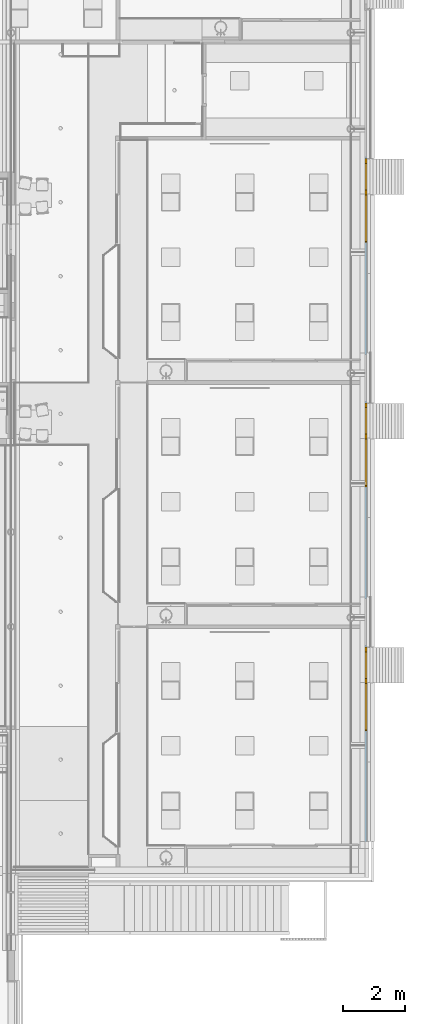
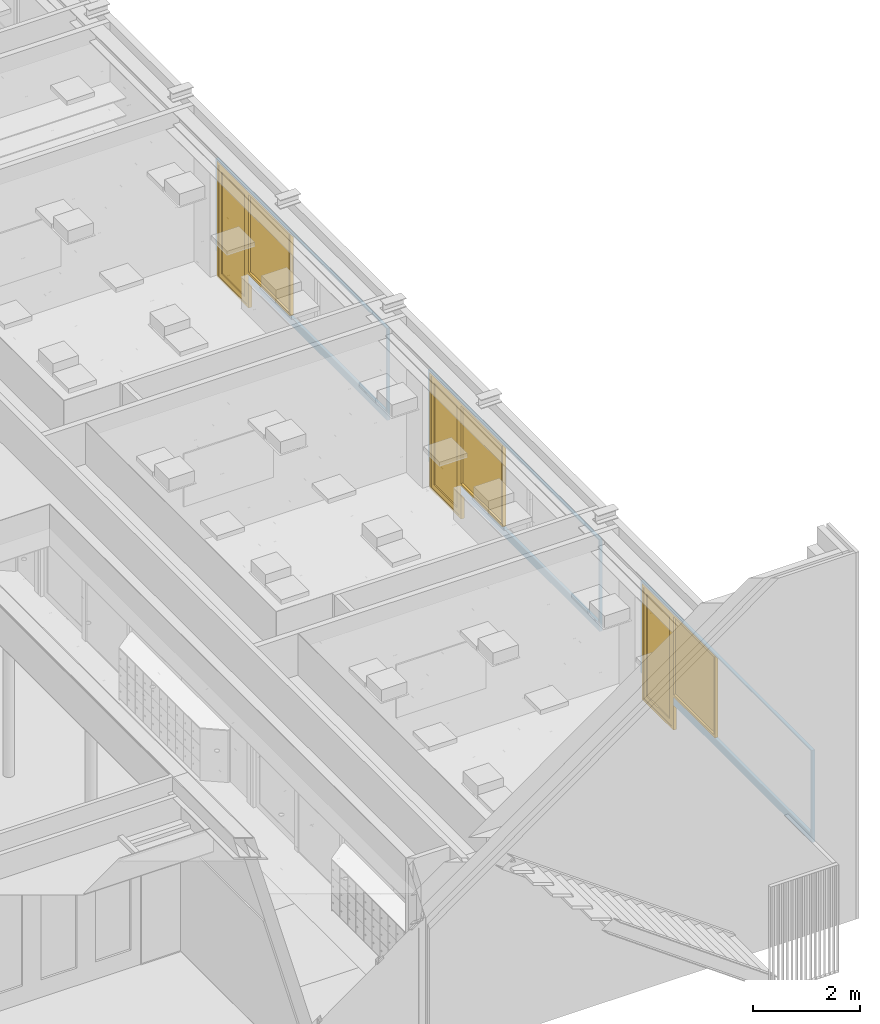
# One storey, part 31 of 347: 3 doors, 6 openings, plus 3 elements that do not belong to this part.
"""IFC2X3 building model written with IfcOpenShell, lengths in millimetres."""

from ifc_helpers import new_model, entity, si_unit, converted_unit, derived_unit, money_unit, direction, frame, origin_with_axes, place, context, subcontext, project, spatial, open_shell, faceted_brep, surface_model, material, type_object, element, fill, save


model = new_model("IFC2X3")

# Units and contexts
model_context = context("Model", 3, precision=0.01, world=origin_with_axes(), true_north=direction((0.0, 1.0)))
plan_context = context("Plan", 3, precision=0.01, world=origin_with_axes(), true_north=direction((0.0, 1.0)))
body_context = subcontext(model_context, "Body", "Model", "MODEL_VIEW")
ifc_project = project(units=[si_unit("LENGTHUNIT", "METRE", prefix="MILLI"), si_unit("AREAUNIT", "SQUARE_METRE"), si_unit("VOLUMEUNIT", "CUBIC_METRE"), converted_unit("PLANEANGLEUNIT", "DEGREE", entity("IfcPlaneAngleMeasure", 0.0174532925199), si_unit("PLANEANGLEUNIT", "RADIAN"), dimensions=[0, 0, 0, 0, 0, 0, 0]), money_unit("EUR"), converted_unit("TIMEUNIT", "Year", entity("IfcTimeMeasure", 31556926.0), si_unit("TIMEUNIT", "SECOND"), dimensions=[0, 0, 1, 0, 0, 0, 0]), si_unit("MASSUNIT", "GRAM", prefix="KILO"), si_unit("THERMODYNAMICTEMPERATUREUNIT", "DEGREE_CELSIUS"), si_unit("LUMINOUSINTENSITYUNIT", "LUMEN"), si_unit("ENERGYUNIT", "JOULE", prefix="MEGA"), derived_unit("THERMALCONDUCTANCEUNIT", [(si_unit("POWERUNIT", "WATT"), 1), (si_unit("LENGTHUNIT", "METRE"), -1), (si_unit("THERMODYNAMICTEMPERATUREUNIT", "KELVIN"), -1)]), derived_unit("SPECIFICHEATCAPACITYUNIT", [(si_unit("ENERGYUNIT", "JOULE"), 1), (si_unit("MASSUNIT", "GRAM", prefix="KILO"), -1), (si_unit("THERMODYNAMICTEMPERATUREUNIT", "KELVIN"), -1)]), derived_unit("MASSDENSITYUNIT", [(si_unit("MASSUNIT", "GRAM", prefix="KILO"), 1), (si_unit("VOLUMEUNIT", "CUBIC_METRE"), -1)])], contexts=[model_context, plan_context])

# Site, building, storey
site_placement = place(None, origin_with_axes())
site = spatial("IfcSite", under=ifc_project, at=site_placement, Name="Site", CompositionType="ELEMENT")
building_placement = place(site_placement, origin_with_axes())
building = spatial("IfcBuilding", under=site, at=building_placement, Name="Naam gebouw", CompositionType="ELEMENT")
storey_placement = place(building_placement, origin_with_axes())
storey = spatial("IfcBuildingStorey", under=building, at=storey_placement, Name="begane grond", CompositionType="ELEMENT", Elevation=0.0)

# Member, openings, door
ifc_material = material(Name="31 pui/kozijn")
member_type = type_object("IfcMemberType", Name="31 pui/kozijn 62", PredefinedType="MEMBER")
member_1_placement = place(storey_placement, frame((56025.0, 19437.5, 535.00000231), z_axis=(0.0, 0.0, 1.0), x_axis=(5.01272690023e-09, -1.0, 0.0)))
member_1 = element("IfcMember", 1, at=member_1_placement, inside=storey, type_object=member_type, material=ifc_material, Name="21_31 buitenkozijn pui", ObjectType="MEMBER", context=body_context, shape_type="Brep", body=[
    faceted_brep([(50.0000003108, 61.9999997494, 2064.99999769), (50.0000003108, 61.9999997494, 0.0), (3.10791392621e-07, 62.0, 0.0), (3.10791392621e-07, 62.0, 2100.0), (6400.00000031, 61.9999679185, 2100.0), (6400.00000031, 61.9999679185, 0.0), (1227.00000031, 61.9999938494, 0.0), (1227.00000031, 61.9999938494, 184.99999769), (2775.00000031, 61.9999860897, 184.99999769), (6350.00000031, 61.9999681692, 184.99999769), (6350.00000031, 61.9999681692, 2064.99999769), (2775.00000031, 61.9999860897, 2064.99999769), (50.0, -2.50636844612e-07, 2064.99999769), (50.0, -2.50636844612e-07, 0.0), (0.0, 0.0, 0.0), (0.0, 0.0, 2100.0), (6400.0, -3.20814521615e-05, 2100.0), (6400.0, -3.20814521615e-05, 0.0), (1227.0, -6.15061424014e-06, 0.0), (1227.0, -6.15061424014e-06, 184.99999769), (2775.0, -1.39103164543e-05, 184.99999769), (6350.0, -3.18308153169e-05, 184.99999769), (6350.0, -3.18308153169e-05, 2064.99999769), (2775.0, -1.39103164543e-05, 2064.99999769)], [[[0, 1, 2, 3, 4, 5, 6, 7, 8, 9, 10, 11]], [[1, 0, 12, 13]], [[1, 13, 14, 2]], [[14, 15, 3, 2]], [[4, 3, 15, 16]], [[4, 16, 17, 5]], [[18, 6, 5, 17]], [[7, 6, 18, 19]], [[8, 7, 19, 20, 21, 9]], [[9, 21, 22, 10]], [[23, 12, 0, 11, 10, 22]], [[12, 23, 22, 21, 20, 19, 18, 17, 16, 15, 14, 13]]]),
])
opening_1_placement = place(member_1_placement, frame((4562.5, 0.0, 184.99999769), z_axis=(0.0, 0.0, 1.0), x_axis=(1.0, 0.0, 0.0)))
element("IfcOpeningElement", 2, at=opening_1_placement, cuts=member_1, Name="31_merk-AA1", context=body_context, shape_type="Brep", body=[
    faceted_brep([(1787.5, -3.18308124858e-05, 1880.0), (1787.5, -3.18308124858e-05, 0.0), (1787.50000036, 71.9999681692, 0.0), (1787.50000036, 71.9999681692, 1880.0), (-1787.5, -1.39103138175e-05, 1880.0), (-1787.5, -1.39103138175e-05, 0.0), (-1787.49999964, 71.9999860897, 0.0), (-1787.49999964, 71.9999860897, 1880.0)], [[[0, 1, 2, 3]], [[0, 4, 5, 1]], [[1, 5, 6, 2]], [[3, 2, 6, 7]], [[4, 0, 3, 7]], [[5, 4, 7, 6]]]),
    faceted_brep([(1787.50000036, 71.9999910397, 0.0), (1787.50000036, 71.9999910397, 1880.0), (1787.49999964, -72.0000089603, 1880.0), (1787.49999964, -72.0000089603, 0.0), (-1787.49999964, 72.0000089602, 0.0), (-1787.49999964, 72.0000089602, 1880.0), (-1787.50000036, -71.9999910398, 1880.0), (-1787.50000036, -71.9999910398, 0.0)], [[[0, 1, 2, 3]], [[0, 4, 5, 1]], [[1, 5, 6, 2]], [[3, 2, 6, 7]], [[4, 0, 3, 7]], [[5, 4, 7, 6]]]),
])
opening_2_placement = place(member_1_placement, frame((1412.5, 0.0, -575.00000231), z_axis=(0.0, 0.0, 1.0), x_axis=(1.0, 0.0, 0.0)))
opening_2 = element("IfcOpeningElement", 3, at=opening_2_placement, cuts=member_1, Name="32_merk-AA2", context=body_context, shape_type="Brep", body=[
    faceted_brep([(1362.50000067, 133.99999317, 760.000009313), (1362.50000067, 133.99999317, 2640.0), (1362.49999969, -62.0000068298, 2640.0), (1362.49999969, -62.0000068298, 760.000009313), (-185.500006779, 134.00000093, 760.000009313), (-185.500006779, 134.00000093, -7.45059994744e-07), (-1362.49999933, 134.00000683, -7.45059994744e-07), (-1362.49999933, 134.00000683, 2640.0), (-1362.50000031, -61.9999931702, 2640.0), (-1362.50000031, -61.9999931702, -7.45060006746e-07), (-185.500007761, -61.9999990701, -7.45060006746e-07), (-185.500007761, -61.9999990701, 760.000009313)], [[[0, 1, 2, 3]], [[0, 4, 5, 6, 7, 1]], [[1, 7, 8, 2]], [[3, 2, 8, 9, 10, 11]], [[4, 0, 3, 11]], [[5, 4, 11, 10]], [[6, 5, 10, 9]], [[7, 6, 9, 8]]]),
])
door_style = type_object("IfcDoorStyle", Name="D1 zl1-b 25", ConstructionType="NOTDEFINED", OperationType="SINGLE_SWING_LEFT", ParameterTakesPrecedence=False, Sizeable=False)
door_1_placement = place(opening_2_placement, frame((-1362.5, 0.0, 0.0), z_axis=(0.0, 0.0, 1.0), x_axis=(1.0, 0.0, 0.0)))
door_1 = element("IfcDoor", 4, at=door_1_placement, inside=storey, type_object=door_style, Name="32_merk-AA2", ObjectType="DOOR", OverallHeight=2640.0, OverallWidth=2725.0, context=body_context, shape_type="SurfaceModel", body=[
    faceted_brep([(54.0000003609, 71.9999994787, 0.0), (1109.00000036, 71.9999941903, 0.0), (1109.0, -5.80975267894e-06, 0.0), (54.0, -5.21325205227e-07, 0.0), (54.0000003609, 71.9999994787, 48.0), (1109.00000036, 71.9999941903, 48.0), (1109.0, -5.80975267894e-06, 48.0), (54.0, -5.21325205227e-07, 48.0)], [[[0, 1, 2, 3]], [[4, 5, 1, 0]], [[1, 5, 6, 2]], [[3, 2, 6, 7]], [[0, 3, 7, 4]], [[7, 6, 5, 4]]]),
    faceted_brep([(2725.00000036, 71.9999860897, 760.0), (2725.0, -1.39103164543e-05, 760.0), (2686.0, -1.37148177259e-05, 760.0), (2686.00000036, 71.9999862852, 760.0), (2725.00000036, 71.9999860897, 2586.0), (2725.0, -1.39103164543e-05, 2586.0), (2686.0, -1.37148177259e-05, 2586.0), (2686.0, -1.37148177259e-05, 814.0), (2686.00000036, 71.9999862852, 814.0), (2686.00000036, 71.9999862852, 2586.0)], [[[0, 1, 2, 3]], [[4, 5, 1, 0]], [[1, 5, 6, 7, 2]], [[3, 2, 7, 8]], [[0, 3, 8, 9, 4]], [[9, 6, 5, 4]], [[8, 7, 6, 9]]]),
    faceted_brep([(1177.00000036, 71.9999938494, 2586.0), (1177.0, -6.15061424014e-06, 2586.0), (1177.0, -6.15061424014e-06, 814.0), (1177.00000036, 71.9999938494, 814.0), (1109.00000036, 71.9999941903, 2586.0), (1109.0, -5.80975267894e-06, 2586.0), (1109.0, -5.80975267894e-06, 0.0), (1177.0, -6.15061424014e-06, 0.0), (1177.0, -6.15061424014e-06, 760.0), (1177.00000036, 71.9999938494, 760.0), (1177.00000036, 71.9999938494, 0.0), (1109.00000036, 71.9999941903, 0.0)], [[[0, 1, 2, 3]], [[4, 5, 1, 0]], [[1, 5, 6, 7, 8, 2]], [[3, 2, 8, 9]], [[0, 3, 9, 10, 11, 4]], [[11, 6, 5, 4]], [[10, 7, 6, 11]], [[9, 8, 7, 10]]]),
    faceted_brep([(2686.00000036, 71.9999862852, 814.0), (2686.0, -1.37148177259e-05, 814.0), (2686.0, -1.37148177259e-05, 760.0), (2686.00000036, 71.9999862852, 760.0), (1177.00000036, 71.9999938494, 814.0), (1177.0, -6.15061424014e-06, 814.0), (1177.0, -6.15061424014e-06, 760.0), (1177.00000036, 71.9999938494, 760.0)], [[[0, 1, 2, 3]], [[4, 5, 1, 0]], [[1, 5, 6, 2]], [[3, 2, 6, 7]], [[0, 3, 7, 4]], [[7, 6, 5, 4]]]),
    faceted_brep([(3.60916629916e-07, 71.9999997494, 0.0), (0.0, -2.50636844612e-07, 0.0), (0.0, -2.50636844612e-07, 2586.0), (3.60916629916e-07, 71.9999997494, 2586.0), (54.0000003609, 71.9999994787, 0.0), (54.0, -5.21325205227e-07, 0.0), (54.0, -5.21325205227e-07, 2586.0), (54.0000003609, 71.9999994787, 2586.0)], [[[0, 1, 2, 3]], [[4, 5, 1, 0]], [[1, 5, 6, 2]], [[3, 2, 6, 7]], [[0, 3, 7, 4]], [[7, 6, 5, 4]]]),
    faceted_brep([(2725.00000036, 71.9999860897, 2640.0), (2725.0, -1.39103164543e-05, 2640.0), (2725.0, -1.39103164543e-05, 2586.0), (2725.00000036, 71.9999860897, 2586.0), (3.60916629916e-07, 71.9999997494, 2640.0), (0.0, -2.50636844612e-07, 2640.0), (0.0, -2.50636844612e-07, 2586.0), (54.0, -5.21325205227e-07, 2586.0), (1109.0, -5.80975267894e-06, 2586.0), (1177.0, -6.15061424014e-06, 2586.0), (2686.0, -1.37148177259e-05, 2586.0), (2686.00000036, 71.9999862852, 2586.0), (1177.00000036, 71.9999938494, 2586.0), (1109.00000036, 71.9999941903, 2586.0), (54.0000003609, 71.9999994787, 2586.0), (3.60916629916e-07, 71.9999997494, 2586.0)], [[[0, 1, 2, 3]], [[4, 5, 1, 0]], [[1, 5, 6, 7, 8, 9, 10, 2]], [[3, 2, 10, 11]], [[0, 3, 11, 12, 13, 14, 15, 4]], [[15, 6, 5, 4]], [[14, 7, 6, 15]], [[13, 8, 7, 14]], [[12, 9, 8, 13]], [[11, 10, 9, 12]]]),
    faceted_brep([(54.0000003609, 71.9999994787, 158.0), (154.000000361, 71.9999989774, 158.0), (154.00000005, 9.99999897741, 158.0), (54.0000000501, 9.99999947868, 158.0), (54.0000003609, 71.9999994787, 2486.0), (154.000000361, 71.9999989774, 2486.0), (154.00000005, 9.99999897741, 2486.0), (54.0000000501, 9.99999947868, 2486.0)], [[[0, 1, 2, 3]], [[0, 4, 5, 1]], [[1, 5, 6, 2]], [[3, 2, 6, 7]], [[4, 0, 3, 7]], [[5, 4, 7, 6]]]),
    faceted_brep([(1109.00000036, 71.9999941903, 158.0), (1109.00000036, 71.9999941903, 2486.0), (1109.00000005, 9.99999419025, 2486.0), (1109.00000005, 9.99999419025, 158.0), (1009.00000036, 71.9999946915, 158.0), (1009.00000036, 71.9999946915, 2486.0), (1009.00000005, 9.99999469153, 2486.0), (1009.00000005, 9.99999469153, 158.0)], [[[0, 1, 2, 3]], [[0, 4, 5, 1]], [[1, 5, 6, 2]], [[3, 2, 6, 7]], [[4, 0, 3, 7]], [[5, 4, 7, 6]]]),
    faceted_brep([(54.0000003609, 71.9999994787, 48.0), (1109.00000036, 71.9999941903, 48.0), (1109.00000005, 9.99999419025, 48.0), (54.0000000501, 9.99999947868, 48.0), (54.0000003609, 71.9999994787, 158.0), (154.000000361, 71.9999989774, 158.0), (1009.00000036, 71.9999946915, 158.0), (1109.00000036, 71.9999941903, 158.0), (1109.00000005, 9.99999419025, 158.0), (1009.00000005, 9.99999469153, 158.0), (154.00000005, 9.99999897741, 158.0), (54.0000000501, 9.99999947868, 158.0)], [[[0, 1, 2, 3]], [[0, 4, 5, 6, 7, 1]], [[1, 7, 8, 2]], [[3, 2, 8, 9, 10, 11]], [[4, 0, 3, 11]], [[5, 4, 11, 10]], [[6, 5, 10, 9]], [[7, 6, 9, 8]]]),
    faceted_brep([(54.0000003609, 71.9999994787, 2586.0), (54.0000003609, 71.9999994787, 2486.0), (54.0000000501, 9.99999947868, 2486.0), (54.0000000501, 9.99999947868, 2586.0), (1109.00000036, 71.9999941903, 2586.0), (1109.00000036, 71.9999941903, 2486.0), (1009.00000036, 71.9999946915, 2486.0), (154.000000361, 71.9999989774, 2486.0), (154.00000005, 9.99999897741, 2486.0), (1009.00000005, 9.99999469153, 2486.0), (1109.00000005, 9.99999419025, 2486.0), (1109.00000005, 9.99999419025, 2586.0)], [[[0, 1, 2, 3]], [[0, 4, 5, 6, 7, 1]], [[1, 7, 8, 2]], [[3, 2, 8, 9, 10, 11]], [[4, 0, 3, 11]], [[5, 4, 11, 10]], [[6, 5, 10, 9]], [[7, 6, 9, 8]]]),
    surface_model("IfcShellBasedSurfaceModel", [(154.000000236, 46.9999989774, 158.0), (154.000000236, 46.9999989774, 2486.0), (1009.00000024, 46.9999946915, 2486.0), (1009.00000024, 46.9999946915, 158.0)], [open_shell([[[0, 1, 2, 3]]])]),
    surface_model("IfcShellBasedSurfaceModel", [(154.000000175, 34.9999989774, 158.0), (1009.00000018, 34.9999946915, 158.0), (1009.00000018, 34.9999946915, 2486.0), (154.000000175, 34.9999989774, 2486.0)], [open_shell([[[0, 1, 2, 3]]])]),
    surface_model("IfcShellBasedSurfaceModel", [(2686.0000003, 59.9999862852, 814.0), (1177.0000003, 59.9999938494, 814.0), (1177.0000003, 59.9999938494, 2586.0), (2686.0000003, 59.9999862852, 2586.0)], [open_shell([[[0, 1, 2, 3]]])]),
    surface_model("IfcShellBasedSurfaceModel", [(2686.00000024, 47.9999862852, 814.0), (2686.00000024, 47.9999862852, 2586.0), (1177.00000024, 47.9999938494, 2586.0), (1177.00000024, 47.9999938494, 814.0)], [open_shell([[[0, 1, 2, 3]]])]),
])
fill(opening_2, door_1)

member_2_placement = place(storey_placement, frame((56025.0, 35287.5, 535.00000231), z_axis=(0.0, 0.0, 1.0), x_axis=(-2.13369877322e-09, -1.0, 0.0)))
member_2 = element("IfcMember", 5, at=member_2_placement, inside=storey, type_object=member_type, material=ifc_material, Name="21_31 buitenkozijn pui", ObjectType="MEMBER", context=body_context, shape_type="Brep", body=[
    faceted_brep([(49.9999998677, 62.0000001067, 2064.99999769), (49.9999998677, 62.0000001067, 0.0), (-1.32288846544e-07, 62.0, 0.0), (-1.32288846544e-07, 62.0, 2100.0), (6399.99999987, 62.0000136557, 2100.0), (6399.99999987, 62.0000136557, 0.0), (1226.99999987, 62.000002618, 0.0), (1226.99999987, 62.000002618, 184.99999769), (2774.99999987, 62.000005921, 184.99999769), (6349.99999987, 62.000013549, 184.99999769), (6349.99999987, 62.000013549, 2064.99999769), (2774.99999987, 62.000005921, 2064.99999769), (50.0, 1.06687991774e-07, 2064.99999769), (50.0, 1.06687991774e-07, 0.0), (0.0, 0.0, 0.0), (0.0, 0.0, 2100.0), (6400.0, 1.36556721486e-05, 2100.0), (6400.0, 1.36556721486e-05, 0.0), (1227.0, 2.61805155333e-06, 0.0), (1227.0, 2.61805155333e-06, 184.99999769), (2775.0, 5.92101656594e-06, 184.99999769), (6350.0, 1.35489841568e-05, 184.99999769), (6350.0, 1.35489841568e-05, 2064.99999769), (2775.0, 5.92101656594e-06, 2064.99999769)], [[[0, 1, 2, 3, 4, 5, 6, 7, 8, 9, 10, 11]], [[1, 0, 12, 13]], [[1, 13, 14, 2]], [[14, 15, 3, 2]], [[4, 3, 15, 16]], [[4, 16, 17, 5]], [[18, 6, 5, 17]], [[7, 6, 18, 19]], [[8, 7, 19, 20, 21, 9]], [[9, 21, 22, 10]], [[23, 12, 0, 11, 10, 22]], [[12, 23, 22, 21, 20, 19, 18, 17, 16, 15, 14, 13]]]),
])
opening_3_placement = place(member_2_placement, frame((4562.5, 0.0, 184.99999769), z_axis=(0.0, 0.0, 1.0), x_axis=(1.0, 0.0, 0.0)))
element("IfcOpeningElement", 6, at=opening_3_placement, cuts=member_2, Name="31_merk-AA1", context=body_context, shape_type="Brep", body=[
    faceted_brep([(1787.5, 1.35489932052e-05, 1880.0), (1787.5, 1.35489932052e-05, 0.0), (1787.49999985, 72.000013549, 0.0), (1787.49999985, 72.000013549, 1880.0), (-1787.5, 5.92102009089e-06, 1880.0), (-1787.5, 5.92102009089e-06, 0.0), (-1787.50000015, 72.000005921, 0.0), (-1787.50000015, 72.000005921, 1880.0)], [[[0, 1, 2, 3]], [[0, 4, 5, 1]], [[1, 5, 6, 2]], [[3, 2, 6, 7]], [[4, 0, 3, 7]], [[5, 4, 7, 6]]]),
    faceted_brep([(1787.49999985, 72.000003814, 0.0), (1787.49999985, 72.000003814, 1880.0), (1787.50000015, -71.999996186, 1880.0), (1787.50000015, -71.999996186, 0.0), (-1787.50000015, 71.999996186, 0.0), (-1787.50000015, 71.999996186, 1880.0), (-1787.49999985, -72.000003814, 1880.0), (-1787.49999985, -72.000003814, 0.0)], [[[0, 1, 2, 3]], [[0, 4, 5, 1]], [[1, 5, 6, 2]], [[3, 2, 6, 7]], [[4, 0, 3, 7]], [[5, 4, 7, 6]]]),
])
opening_4_placement = place(member_2_placement, frame((1412.5, 0.0, -575.00000231), z_axis=(0.0, 0.0, 1.0), x_axis=(1.0, 0.0, 0.0)))
opening_4 = element("IfcOpeningElement", 7, at=opening_4_placement, cuts=member_2, Name="32_merk-AA2", context=body_context, shape_type="Brep", body=[
    faceted_brep([(1362.49999971, 134.000002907, 760.000009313), (1362.49999971, 134.000002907, 2640.0), (1362.50000013, -61.9999970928, 2640.0), (1362.50000013, -61.9999970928, 760.000009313), (-185.500007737, 133.999999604, 760.000009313), (-185.500007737, 133.999999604, -7.45052889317e-07), (-1362.50000029, 133.999997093, -7.45052889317e-07), (-1362.50000029, 133.999997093, 2640.0), (-1362.49999987, -62.0000029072, 2640.0), (-1362.49999987, -62.0000029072, -7.45052901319e-07), (-185.500007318, -62.0000003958, -7.45052901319e-07), (-185.500007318, -62.0000003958, 760.000009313)], [[[0, 1, 2, 3]], [[0, 4, 5, 6, 7, 1]], [[1, 7, 8, 2]], [[3, 2, 8, 9, 10, 11]], [[4, 0, 3, 11]], [[5, 4, 11, 10]], [[6, 5, 10, 9]], [[7, 6, 9, 8]]]),
])
door_2_placement = place(opening_4_placement, frame((-1362.5, 0.0, 0.0), z_axis=(0.0, 0.0, 1.0), x_axis=(1.0, 0.0, 0.0)))
door_2 = element("IfcDoor", 8, at=door_2_placement, inside=storey, type_object=door_style, Name="32_merk-AA2", ObjectType="DOOR", OverallHeight=2640.0, OverallWidth=2725.0, context=body_context, shape_type="SurfaceModel", body=[
    faceted_brep([(53.9999998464, 72.0000002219, 0.0), (1108.99999985, 72.000002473, 0.0), (1109.0, 2.47295872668e-06, 0.0), (54.0, 2.21902496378e-07, 0.0), (53.9999998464, 72.0000002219, 48.0), (1108.99999985, 72.000002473, 48.0), (1109.0, 2.47295872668e-06, 48.0), (54.0, 2.21902496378e-07, 48.0)], [[[0, 1, 2, 3]], [[4, 5, 1, 0]], [[1, 5, 6, 2]], [[3, 2, 6, 7]], [[0, 3, 7, 4]], [[7, 6, 5, 4]]]),
    faceted_brep([(2724.99999985, 72.000005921, 760.0), (2725.0, 5.92101656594e-06, 760.0), (2686.0, 5.83779780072e-06, 760.0), (2685.99999985, 72.0000058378, 760.0), (2724.99999985, 72.000005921, 2586.0), (2725.0, 5.92101656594e-06, 2586.0), (2686.0, 5.83779780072e-06, 2586.0), (2686.0, 5.83779780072e-06, 814.0), (2685.99999985, 72.0000058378, 814.0), (2685.99999985, 72.0000058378, 2586.0)], [[[0, 1, 2, 3]], [[4, 5, 1, 0]], [[1, 5, 6, 7, 2]], [[3, 2, 7, 8]], [[0, 3, 8, 9, 4]], [[9, 6, 5, 4]], [[8, 7, 6, 9]]]),
    faceted_brep([(1176.99999985, 72.0000026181, 2586.0), (1177.0, 2.61805155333e-06, 2586.0), (1177.0, 2.61805155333e-06, 814.0), (1176.99999985, 72.0000026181, 814.0), (1108.99999985, 72.000002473, 2586.0), (1109.0, 2.47295872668e-06, 2586.0), (1109.0, 2.47295872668e-06, 0.0), (1177.0, 2.61805155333e-06, 0.0), (1177.0, 2.61805155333e-06, 760.0), (1176.99999985, 72.0000026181, 760.0), (1176.99999985, 72.0000026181, 0.0), (1108.99999985, 72.000002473, 0.0)], [[[0, 1, 2, 3]], [[4, 5, 1, 0]], [[1, 5, 6, 7, 8, 2]], [[3, 2, 8, 9]], [[0, 3, 9, 10, 11, 4]], [[11, 6, 5, 4]], [[10, 7, 6, 11]], [[9, 8, 7, 10]]]),
    faceted_brep([(2685.99999985, 72.0000058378, 814.0), (2686.0, 5.83779780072e-06, 814.0), (2686.0, 5.83779780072e-06, 760.0), (2685.99999985, 72.0000058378, 760.0), (1176.99999985, 72.0000026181, 814.0), (1177.0, 2.61805155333e-06, 814.0), (1177.0, 2.61805155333e-06, 760.0), (1176.99999985, 72.0000026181, 760.0)], [[[0, 1, 2, 3]], [[4, 5, 1, 0]], [[1, 5, 6, 2]], [[3, 2, 6, 7]], [[0, 3, 7, 4]], [[7, 6, 5, 4]]]),
    faceted_brep([(-1.53626444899e-07, 72.0000001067, 0.0), (0.0, 1.06687991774e-07, 0.0), (0.0, 1.06687991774e-07, 2586.0), (-1.53626444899e-07, 72.0000001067, 2586.0), (53.9999998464, 72.0000002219, 0.0), (54.0, 2.21902496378e-07, 0.0), (54.0, 2.21902496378e-07, 2586.0), (53.9999998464, 72.0000002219, 2586.0)], [[[0, 1, 2, 3]], [[4, 5, 1, 0]], [[1, 5, 6, 2]], [[3, 2, 6, 7]], [[0, 3, 7, 4]], [[7, 6, 5, 4]]]),
    faceted_brep([(2724.99999985, 72.000005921, 2640.0), (2725.0, 5.92101656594e-06, 2640.0), (2725.0, 5.92101656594e-06, 2586.0), (2724.99999985, 72.000005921, 2586.0), (-1.53626444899e-07, 72.0000001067, 2640.0), (0.0, 1.06687991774e-07, 2640.0), (0.0, 1.06687991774e-07, 2586.0), (54.0, 2.21902496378e-07, 2586.0), (1109.0, 2.47295872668e-06, 2586.0), (1177.0, 2.61805155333e-06, 2586.0), (2686.0, 5.83779780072e-06, 2586.0), (2685.99999985, 72.0000058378, 2586.0), (1176.99999985, 72.0000026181, 2586.0), (1108.99999985, 72.000002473, 2586.0), (53.9999998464, 72.0000002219, 2586.0), (-1.53626444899e-07, 72.0000001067, 2586.0)], [[[0, 1, 2, 3]], [[4, 5, 1, 0]], [[1, 5, 6, 7, 8, 9, 10, 2]], [[3, 2, 10, 11]], [[0, 3, 11, 12, 13, 14, 15, 4]], [[15, 6, 5, 4]], [[14, 7, 6, 15]], [[13, 8, 7, 14]], [[12, 9, 8, 13]], [[11, 10, 9, 12]]]),
    faceted_brep([(53.9999998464, 72.0000002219, 158.0), (153.999999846, 72.0000004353, 158.0), (153.999999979, 10.0000004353, 158.0), (53.9999999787, 10.0000002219, 158.0), (53.9999998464, 72.0000002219, 2486.0), (153.999999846, 72.0000004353, 2486.0), (153.999999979, 10.0000004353, 2486.0), (53.9999999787, 10.0000002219, 2486.0)], [[[0, 1, 2, 3]], [[0, 4, 5, 1]], [[1, 5, 6, 2]], [[3, 2, 6, 7]], [[4, 0, 3, 7]], [[5, 4, 7, 6]]]),
    faceted_brep([(1108.99999985, 72.000002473, 158.0), (1108.99999985, 72.000002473, 2486.0), (1108.99999998, 10.000002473, 2486.0), (1108.99999998, 10.000002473, 158.0), (1008.99999985, 72.0000022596, 158.0), (1008.99999985, 72.0000022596, 2486.0), (1008.99999998, 10.0000022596, 2486.0), (1008.99999998, 10.0000022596, 158.0)], [[[0, 1, 2, 3]], [[0, 4, 5, 1]], [[1, 5, 6, 2]], [[3, 2, 6, 7]], [[4, 0, 3, 7]], [[5, 4, 7, 6]]]),
    faceted_brep([(53.9999998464, 72.0000002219, 48.0), (1108.99999985, 72.000002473, 48.0), (1108.99999998, 10.000002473, 48.0), (53.9999999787, 10.0000002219, 48.0), (53.9999998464, 72.0000002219, 158.0), (153.999999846, 72.0000004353, 158.0), (1008.99999985, 72.0000022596, 158.0), (1108.99999985, 72.000002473, 158.0), (1108.99999998, 10.000002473, 158.0), (1008.99999998, 10.0000022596, 158.0), (153.999999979, 10.0000004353, 158.0), (53.9999999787, 10.0000002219, 158.0)], [[[0, 1, 2, 3]], [[0, 4, 5, 6, 7, 1]], [[1, 7, 8, 2]], [[3, 2, 8, 9, 10, 11]], [[4, 0, 3, 11]], [[5, 4, 11, 10]], [[6, 5, 10, 9]], [[7, 6, 9, 8]]]),
    faceted_brep([(53.9999998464, 72.0000002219, 2586.0), (53.9999998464, 72.0000002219, 2486.0), (53.9999999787, 10.0000002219, 2486.0), (53.9999999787, 10.0000002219, 2586.0), (1108.99999985, 72.000002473, 2586.0), (1108.99999985, 72.000002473, 2486.0), (1008.99999985, 72.0000022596, 2486.0), (153.999999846, 72.0000004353, 2486.0), (153.999999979, 10.0000004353, 2486.0), (1008.99999998, 10.0000022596, 2486.0), (1108.99999998, 10.000002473, 2486.0), (1108.99999998, 10.000002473, 2586.0)], [[[0, 1, 2, 3]], [[0, 4, 5, 6, 7, 1]], [[1, 7, 8, 2]], [[3, 2, 8, 9, 10, 11]], [[4, 0, 3, 11]], [[5, 4, 11, 10]], [[6, 5, 10, 9]], [[7, 6, 9, 8]]]),
    surface_model("IfcShellBasedSurfaceModel", [(153.9999999, 47.0000004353, 158.0), (153.9999999, 47.0000004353, 2486.0), (1008.9999999, 47.0000022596, 2486.0), (1008.9999999, 47.0000022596, 158.0)], [open_shell([[[0, 1, 2, 3]]])]),
    surface_model("IfcShellBasedSurfaceModel", [(153.999999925, 35.0000004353, 158.0), (1008.99999993, 35.0000022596, 158.0), (1008.99999993, 35.0000022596, 2486.0), (153.999999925, 35.0000004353, 2486.0)], [open_shell([[[0, 1, 2, 3]]])]),
    surface_model("IfcShellBasedSurfaceModel", [(2685.99999987, 60.0000058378, 814.0), (1176.99999987, 60.0000026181, 814.0), (1176.99999987, 60.0000026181, 2586.0), (2685.99999987, 60.0000058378, 2586.0)], [open_shell([[[0, 1, 2, 3]]])]),
    surface_model("IfcShellBasedSurfaceModel", [(2685.9999999, 48.0000058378, 814.0), (2685.9999999, 48.0000058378, 2586.0), (1176.9999999, 48.0000026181, 2586.0), (1176.9999999, 48.0000026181, 814.0)], [open_shell([[[0, 1, 2, 3]]])]),
])
fill(opening_4, door_2)

member_3_placement = place(storey_placement, frame((56025.0, 27362.5, 535.00000231), z_axis=(0.0, 0.0, 1.0), x_axis=(0.0, -1.0, 0.0)))
member_3 = element("IfcMember", 9, at=member_3_placement, inside=storey, type_object=member_type, material=ifc_material, Name="21_31 buitenkozijn pui", ObjectType="MEMBER", context=body_context, shape_type="Brep", body=[
    faceted_brep([(50.0, 62.0, 2064.99999769), (50.0, 62.0, 0.0), (0.0, 62.0, 0.0), (0.0, 62.0, 2100.0), (6400.0, 62.0, 2100.0), (6400.0, 62.0, 0.0), (1227.0, 62.0, 0.0), (1227.0, 62.0, 184.99999769), (2775.0, 62.0, 184.99999769), (6350.0, 62.0, 184.99999769), (6350.0, 62.0, 2064.99999769), (2775.0, 62.0, 2064.99999769), (50.0, 0.0, 2064.99999769), (50.0, 0.0, 0.0), (0.0, 0.0, 0.0), (0.0, 0.0, 2100.0), (6400.0, 0.0, 2100.0), (6400.0, 0.0, 0.0), (1227.0, 0.0, 0.0), (1227.0, 0.0, 184.99999769), (2775.0, 0.0, 184.99999769), (6350.0, 0.0, 184.99999769), (6350.0, 0.0, 2064.99999769), (2775.0, 0.0, 2064.99999769)], [[[0, 1, 2, 3, 4, 5, 6, 7, 8, 9, 10, 11]], [[1, 0, 12, 13]], [[1, 13, 14, 2]], [[14, 15, 3, 2]], [[4, 3, 15, 16]], [[4, 16, 17, 5]], [[18, 6, 5, 17]], [[7, 6, 18, 19]], [[8, 7, 19, 20, 21, 9]], [[9, 21, 22, 10]], [[23, 12, 0, 11, 10, 22]], [[12, 23, 22, 21, 20, 19, 18, 17, 16, 15, 14, 13]]]),
])
opening_5_placement = place(member_3_placement, frame((4562.5, 0.0, 184.99999769), z_axis=(0.0, 0.0, 1.0), x_axis=(1.0, 0.0, 0.0)))
element("IfcOpeningElement", 10, at=opening_5_placement, cuts=member_3, Name="31_merk-AA1", context=body_context, shape_type="Brep", body=[
    faceted_brep([(1787.5, 0.0, 1880.0), (1787.5, 0.0, 0.0), (1787.5, 72.0, 0.0), (1787.5, 72.0, 1880.0), (-1787.5, 0.0, 1880.0), (-1787.5, 0.0, 0.0), (-1787.5, 72.0, 0.0), (-1787.5, 72.0, 1880.0)], [[[0, 1, 2, 3]], [[0, 4, 5, 1]], [[1, 5, 6, 2]], [[3, 2, 6, 7]], [[4, 0, 3, 7]], [[5, 4, 7, 6]]]),
    faceted_brep([(1787.5, 72.0, 0.0), (1787.5, 72.0, 1880.0), (1787.5, -72.0, 1880.0), (1787.5, -72.0, 0.0), (-1787.5, 72.0, 0.0), (-1787.5, 72.0, 1880.0), (-1787.5, -72.0, 1880.0), (-1787.5, -72.0, 0.0)], [[[0, 1, 2, 3]], [[0, 4, 5, 1]], [[1, 5, 6, 2]], [[3, 2, 6, 7]], [[4, 0, 3, 7]], [[5, 4, 7, 6]]]),
])
opening_6_placement = place(member_3_placement, frame((1412.5, 0.0, -575.00000231), z_axis=(0.0, 0.0, 1.0), x_axis=(1.0, 0.0, 0.0)))
opening_6 = element("IfcOpeningElement", 11, at=opening_6_placement, cuts=member_3, Name="32_merk-AA2", context=body_context, shape_type="Brep", body=[
    faceted_brep([(1362.5, 134.0, 760.000009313), (1362.5, 134.0, 2640.0), (1362.5, -62.0, 2640.0), (1362.5, -62.0, 760.000009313), (-185.500007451, 134.0, 760.000009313), (-185.500007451, 134.0, -7.45059994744e-07), (-1362.5, 134.0, -7.45059994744e-07), (-1362.5, 134.0, 2640.0), (-1362.5, -62.0, 2640.0), (-1362.5, -62.0, -7.45060006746e-07), (-185.500007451, -62.0, -7.45060006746e-07), (-185.500007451, -62.0, 760.000009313)], [[[0, 1, 2, 3]], [[0, 4, 5, 6, 7, 1]], [[1, 7, 8, 2]], [[3, 2, 8, 9, 10, 11]], [[4, 0, 3, 11]], [[5, 4, 11, 10]], [[6, 5, 10, 9]], [[7, 6, 9, 8]]]),
])
door_3_placement = place(opening_6_placement, frame((-1362.5, 0.0, 0.0), z_axis=(0.0, 0.0, 1.0), x_axis=(1.0, 0.0, 0.0)))
door_3 = element("IfcDoor", 12, at=door_3_placement, inside=storey, type_object=door_style, Name="32_merk-AA2", ObjectType="DOOR", OverallHeight=2640.0, OverallWidth=2725.0, context=body_context, shape_type="SurfaceModel", body=[
    faceted_brep([(54.0, 72.0, 0.0), (1109.0, 72.0, 0.0), (1109.0, 0.0, 0.0), (54.0, 0.0, 0.0), (54.0, 72.0, 48.0), (1109.0, 72.0, 48.0), (1109.0, 0.0, 48.0), (54.0, 0.0, 48.0)], [[[0, 1, 2, 3]], [[4, 5, 1, 0]], [[1, 5, 6, 2]], [[3, 2, 6, 7]], [[0, 3, 7, 4]], [[7, 6, 5, 4]]]),
    faceted_brep([(2725.0, 72.0, 760.0), (2725.0, 0.0, 760.0), (2686.0, 0.0, 760.0), (2686.0, 72.0, 760.0), (2725.0, 72.0, 2586.0), (2725.0, 0.0, 2586.0), (2686.0, 0.0, 2586.0), (2686.0, 0.0, 814.0), (2686.0, 72.0, 814.0), (2686.0, 72.0, 2586.0)], [[[0, 1, 2, 3]], [[4, 5, 1, 0]], [[1, 5, 6, 7, 2]], [[3, 2, 7, 8]], [[0, 3, 8, 9, 4]], [[9, 6, 5, 4]], [[8, 7, 6, 9]]]),
    faceted_brep([(1177.0, 72.0, 2586.0), (1177.0, 0.0, 2586.0), (1177.0, 0.0, 814.0), (1177.0, 72.0, 814.0), (1109.0, 72.0, 2586.0), (1109.0, 0.0, 2586.0), (1109.0, 0.0, 0.0), (1177.0, 0.0, 0.0), (1177.0, 0.0, 760.0), (1177.0, 72.0, 760.0), (1177.0, 72.0, 0.0), (1109.0, 72.0, 0.0)], [[[0, 1, 2, 3]], [[4, 5, 1, 0]], [[1, 5, 6, 7, 8, 2]], [[3, 2, 8, 9]], [[0, 3, 9, 10, 11, 4]], [[11, 6, 5, 4]], [[10, 7, 6, 11]], [[9, 8, 7, 10]]]),
    faceted_brep([(2686.0, 72.0, 814.0), (2686.0, 0.0, 814.0), (2686.0, 0.0, 760.0), (2686.0, 72.0, 760.0), (1177.0, 72.0, 814.0), (1177.0, 0.0, 814.0), (1177.0, 0.0, 760.0), (1177.0, 72.0, 760.0)], [[[0, 1, 2, 3]], [[4, 5, 1, 0]], [[1, 5, 6, 2]], [[3, 2, 6, 7]], [[0, 3, 7, 4]], [[7, 6, 5, 4]]]),
    faceted_brep([(0.0, 72.0, 0.0), (0.0, 0.0, 0.0), (0.0, 0.0, 2586.0), (0.0, 72.0, 2586.0), (54.0, 72.0, 0.0), (54.0, 0.0, 0.0), (54.0, 0.0, 2586.0), (54.0, 72.0, 2586.0)], [[[0, 1, 2, 3]], [[4, 5, 1, 0]], [[1, 5, 6, 2]], [[3, 2, 6, 7]], [[0, 3, 7, 4]], [[7, 6, 5, 4]]]),
    faceted_brep([(2725.0, 72.0, 2640.0), (2725.0, 0.0, 2640.0), (2725.0, 0.0, 2586.0), (2725.0, 72.0, 2586.0), (0.0, 72.0, 2640.0), (0.0, 0.0, 2640.0), (0.0, 0.0, 2586.0), (54.0, 0.0, 2586.0), (1109.0, 0.0, 2586.0), (1177.0, 0.0, 2586.0), (2686.0, 0.0, 2586.0), (2686.0, 72.0, 2586.0), (1177.0, 72.0, 2586.0), (1109.0, 72.0, 2586.0), (54.0, 72.0, 2586.0), (0.0, 72.0, 2586.0)], [[[0, 1, 2, 3]], [[4, 5, 1, 0]], [[1, 5, 6, 7, 8, 9, 10, 2]], [[3, 2, 10, 11]], [[0, 3, 11, 12, 13, 14, 15, 4]], [[15, 6, 5, 4]], [[14, 7, 6, 15]], [[13, 8, 7, 14]], [[12, 9, 8, 13]], [[11, 10, 9, 12]]]),
    faceted_brep([(54.0, 72.0, 158.0), (154.0, 72.0, 158.0), (154.0, 10.0, 158.0), (54.0, 10.0, 158.0), (54.0, 72.0, 2486.0), (154.0, 72.0, 2486.0), (154.0, 10.0, 2486.0), (54.0, 10.0, 2486.0)], [[[0, 1, 2, 3]], [[0, 4, 5, 1]], [[1, 5, 6, 2]], [[3, 2, 6, 7]], [[4, 0, 3, 7]], [[5, 4, 7, 6]]]),
    faceted_brep([(1109.0, 72.0, 158.0), (1109.0, 72.0, 2486.0), (1109.0, 10.0, 2486.0), (1109.0, 10.0, 158.0), (1009.0, 72.0, 158.0), (1009.0, 72.0, 2486.0), (1009.0, 10.0, 2486.0), (1009.0, 10.0, 158.0)], [[[0, 1, 2, 3]], [[0, 4, 5, 1]], [[1, 5, 6, 2]], [[3, 2, 6, 7]], [[4, 0, 3, 7]], [[5, 4, 7, 6]]]),
    faceted_brep([(54.0, 72.0, 48.0), (1109.0, 72.0, 48.0), (1109.0, 10.0, 48.0), (54.0, 10.0, 48.0), (54.0, 72.0, 158.0), (154.0, 72.0, 158.0), (1009.0, 72.0, 158.0), (1109.0, 72.0, 158.0), (1109.0, 10.0, 158.0), (1009.0, 10.0, 158.0), (154.0, 10.0, 158.0), (54.0, 10.0, 158.0)], [[[0, 1, 2, 3]], [[0, 4, 5, 6, 7, 1]], [[1, 7, 8, 2]], [[3, 2, 8, 9, 10, 11]], [[4, 0, 3, 11]], [[5, 4, 11, 10]], [[6, 5, 10, 9]], [[7, 6, 9, 8]]]),
    faceted_brep([(54.0, 72.0, 2586.0), (54.0, 72.0, 2486.0), (54.0, 10.0, 2486.0), (54.0, 10.0, 2586.0), (1109.0, 72.0, 2586.0), (1109.0, 72.0, 2486.0), (1009.0, 72.0, 2486.0), (154.0, 72.0, 2486.0), (154.0, 10.0, 2486.0), (1009.0, 10.0, 2486.0), (1109.0, 10.0, 2486.0), (1109.0, 10.0, 2586.0)], [[[0, 1, 2, 3]], [[0, 4, 5, 6, 7, 1]], [[1, 7, 8, 2]], [[3, 2, 8, 9, 10, 11]], [[4, 0, 3, 11]], [[5, 4, 11, 10]], [[6, 5, 10, 9]], [[7, 6, 9, 8]]]),
    surface_model("IfcShellBasedSurfaceModel", [(154.0, 47.0, 158.0), (154.0, 47.0, 2486.0), (1009.0, 47.0, 2486.0), (1009.0, 47.0, 158.0)], [open_shell([[[0, 1, 2, 3]]])]),
    surface_model("IfcShellBasedSurfaceModel", [(154.0, 35.0, 158.0), (1009.0, 35.0, 158.0), (1009.0, 35.0, 2486.0), (154.0, 35.0, 2486.0)], [open_shell([[[0, 1, 2, 3]]])]),
    surface_model("IfcShellBasedSurfaceModel", [(2686.0, 60.0, 814.0), (1177.0, 60.0, 814.0), (1177.0, 60.0, 2586.0), (2686.0, 60.0, 2586.0)], [open_shell([[[0, 1, 2, 3]]])]),
    surface_model("IfcShellBasedSurfaceModel", [(2686.0, 48.0, 814.0), (2686.0, 48.0, 2586.0), (1177.0, 48.0, 2586.0), (1177.0, 48.0, 814.0)], [open_shell([[[0, 1, 2, 3]]])]),
])
fill(opening_6, door_3)

save(model, "model.ifc")
